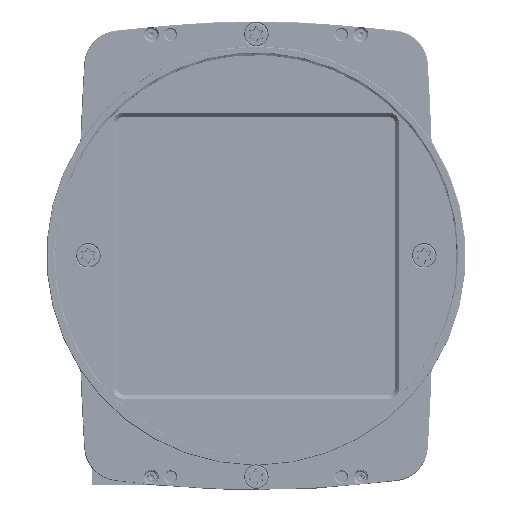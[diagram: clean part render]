
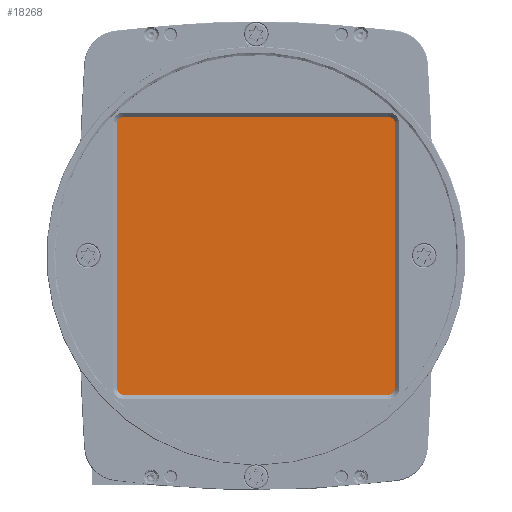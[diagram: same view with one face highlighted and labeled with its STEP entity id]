
A CAD part, top view. The second image highlights one B-rep face of the part: STEP entity #18268.
In plain terms, the highlighted planar face has unit normal (0, 0, 1).
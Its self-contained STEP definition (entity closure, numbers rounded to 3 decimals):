
#6022=FACE_OUTER_BOUND('',#27349,.T.);
#11157=LINE('',#150640,#14692);
#11161=LINE('',#150649,#14696);
#11165=LINE('',#150658,#14700);
#11167=LINE('',#150662,#14702);
#11175=LINE('',#150676,#14710);
#11176=LINE('',#150677,#14711);
#11177=LINE('',#150678,#14712);
#11178=LINE('',#150679,#14713);
#14692=VECTOR('',#80749,1.);
#14696=VECTOR('',#80755,1.);
#14700=VECTOR('',#80761,1.);
#14702=VECTOR('',#80765,1.);
#14710=VECTOR('',#80777,1.);
#14711=VECTOR('',#80778,1.);
#14712=VECTOR('',#80779,1.);
#14713=VECTOR('',#80780,1.);
#18268=ADVANCED_FACE('',(#6022),#22467,.T.);
#22467=PLANE('',#71615);
#27349=EDGE_LOOP('',(#34626,#34627,#34628,#34629,#34630,#34631,#34632,#34633));
#34626=ORIENTED_EDGE('',*,*,#58716,.T.);
#34627=ORIENTED_EDGE('',*,*,#58726,.T.);
#34628=ORIENTED_EDGE('',*,*,#58718,.T.);
#34629=ORIENTED_EDGE('',*,*,#58727,.T.);
#34630=ORIENTED_EDGE('',*,*,#58708,.T.);
#34631=ORIENTED_EDGE('',*,*,#58728,.T.);
#34632=ORIENTED_EDGE('',*,*,#58712,.T.);
#34633=ORIENTED_EDGE('',*,*,#58729,.T.);
#51894=VERTEX_POINT('',#150639);
#51895=VERTEX_POINT('',#150641);
#51898=VERTEX_POINT('',#150648);
#51899=VERTEX_POINT('',#150650);
#51902=VERTEX_POINT('',#150657);
#51903=VERTEX_POINT('',#150659);
#51904=VERTEX_POINT('',#150663);
#51905=VERTEX_POINT('',#150664);
#58708=EDGE_CURVE('',#51895,#51894,#11157,.T.);
#58712=EDGE_CURVE('',#51899,#51898,#11161,.T.);
#58716=EDGE_CURVE('',#51903,#51902,#11165,.T.);
#58718=EDGE_CURVE('',#51904,#51905,#11167,.T.);
#58726=EDGE_CURVE('',#51902,#51904,#11175,.T.);
#58727=EDGE_CURVE('',#51905,#51895,#11176,.T.);
#58728=EDGE_CURVE('',#51894,#51899,#11177,.T.);
#58729=EDGE_CURVE('',#51898,#51903,#11178,.T.);
#71615=AXIS2_PLACEMENT_3D('',#150680,#80781,#80782);
#80749=DIRECTION('',(1.,0.,0.));
#80755=DIRECTION('',(0.,1.,0.));
#80761=DIRECTION('',(-1.,0.,0.));
#80765=DIRECTION('',(0.,-1.,0.));
#80777=DIRECTION('',(-0.707,-0.707,0.));
#80778=DIRECTION('',(0.707,-0.707,0.));
#80779=DIRECTION('',(0.707,0.707,0.));
#80780=DIRECTION('',(-0.707,0.707,0.));
#80781=DIRECTION('',(0.,0.,1.));
#80782=DIRECTION('',(1.,0.,0.));
#150639=CARTESIAN_POINT('',(33.9,-35.9,3.6));
#150640=CARTESIAN_POINT('',(-35.9,-35.9,3.6));
#150641=CARTESIAN_POINT('',(-33.9,-35.9,3.6));
#150648=CARTESIAN_POINT('',(35.9,33.9,3.6));
#150649=CARTESIAN_POINT('',(35.9,-35.9,3.6));
#150650=CARTESIAN_POINT('',(35.9,-33.9,3.6));
#150657=CARTESIAN_POINT('',(-33.9,35.9,3.6));
#150658=CARTESIAN_POINT('',(35.9,35.9,3.6));
#150659=CARTESIAN_POINT('',(33.9,35.9,3.6));
#150662=CARTESIAN_POINT('',(-35.9,35.9,3.6));
#150663=CARTESIAN_POINT('',(-35.9,33.9,3.6));
#150664=CARTESIAN_POINT('',(-35.9,-33.9,3.6));
#150676=CARTESIAN_POINT('',(-34.9,34.9,3.6));
#150677=CARTESIAN_POINT('',(-34.9,-34.9,3.6));
#150678=CARTESIAN_POINT('',(34.9,-34.9,3.6));
#150679=CARTESIAN_POINT('',(34.9,34.9,3.6));
#150680=CARTESIAN_POINT('',(0.,0.,3.6));
